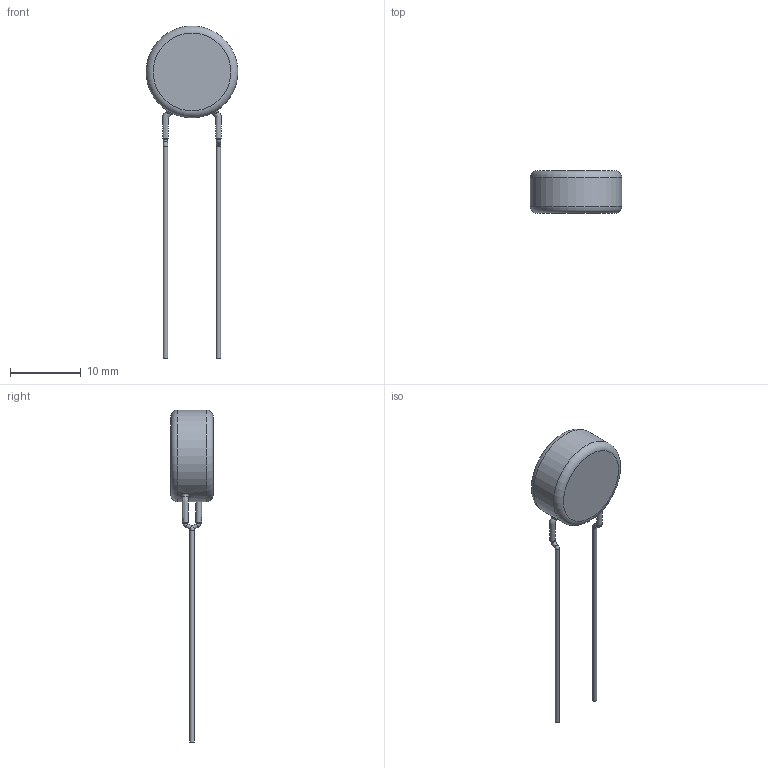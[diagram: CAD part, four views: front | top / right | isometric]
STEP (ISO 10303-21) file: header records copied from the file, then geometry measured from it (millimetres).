
FILE_DESCRIPTION(/* description */ (''),/* implementation_level */ '2;1');
FILE_NAME(/* name */ 'I:\Marketing\M6t1\3D-Models\Zchng-Werk-3\Upload for homepage\BCC\AY2\Inline Dia 0,6 LS 7,5\AY2682K51Y5VS63V7.stp',/* time_stamp */ '2020-11-06T09:04:31+01:00',/* author */ ('truediger'),/* organization */ (''),/* preprocessor_version */ 'ST-DEVELOPER v18',/* originating_system */ 'Autodesk Inventor 2020',/* authorisation */ '');
FILE_SCHEMA (('AUTOMOTIVE_DESIGN { 1 0 10303 214 3 1 1 }'));
Length unit declared in the file: millimetre
Products named in the file (1): Bauteil1
Bounding box: 13 x 6 x 47 mm (x, y, z)
Volume: 801.7 mm3; surface area: 613.5 mm2
Topology: 1 solids, 1 shells, 27 faces, 63 edges, 42 vertices
Faces by surface type: cylinder 9, torus 6, plane 6, bspline 6
Full cylindrical faces by diameter (mm): 0.6 x4, 13 x1
Entity records: 2645 total; most frequent: CARTESIAN_POINT 1968, DIRECTION 133, ORIENTED_EDGE 126, AXIS2_PLACEMENT_3D 64, EDGE_CURVE 63, VERTEX_POINT 42, CIRCLE 40, EDGE_LOOP 31
